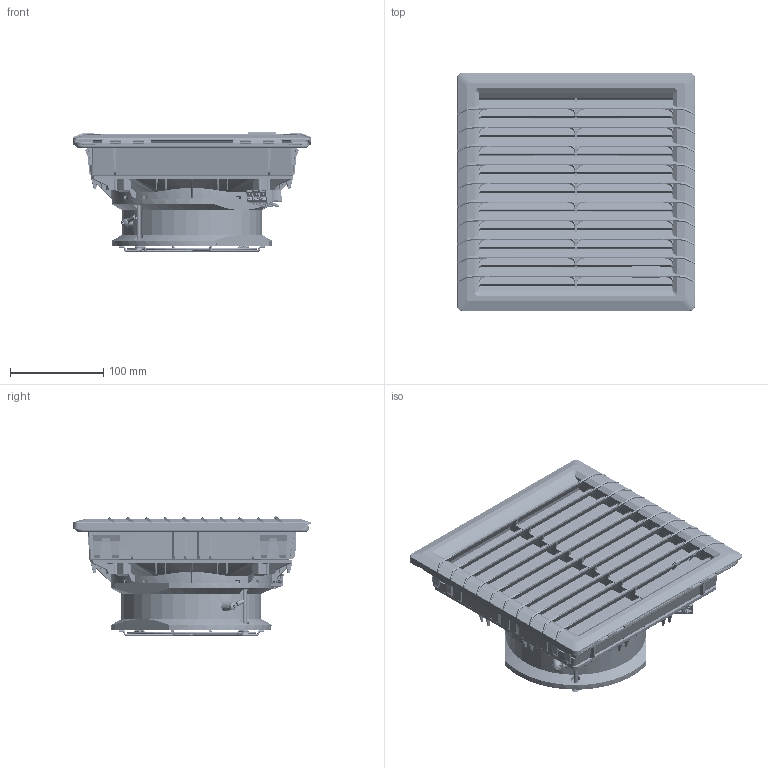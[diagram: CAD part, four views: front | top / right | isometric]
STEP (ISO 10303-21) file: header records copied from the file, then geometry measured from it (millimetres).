
FILE_DESCRIPTION((''),'2;1');
FILE_NAME('MODEL-999_ASM','2026-01-09T08:52:04',('JoelB'),('SAGINAW CONTROL & ENGINEERING'),'CREO PARAMETRIC BY PTC INC, 2021284','CREO PARAMETRIC BY PTC INC, 2021284','');
FILE_SCHEMA(('AUTOMOTIVE_DESIGN { 1 0 10303 214 1 1 1 1 }'));
Products named in the file (36): SF-4725-PU24-HOUSING_1_1; SF-4725-PU24-FOAM_1_1; SF-4725-PU24-HOUSING_ASM_1_ASM__ASM; SF-4725-PU24-ADAPTER_1_1; SF-4725-PU24-FOAM2_1_1; SF-4725-PU24-ADAPTER_ASM_1_ASM__ASM; FAN-GENERIC-172X151X51-CABLE1_2; FAN-GENERIC-172X151X51-CABLE1_3; FAN-GENERIC-172X151X51-CABLE1_1_ASM; TB-FM-3P-10_5-ADL-LK_980-PR_1_1; PIN-8MM_FERRULE_0_34MM2-INS_1_1; SF-4725-172-ELEC-1_1_1; LUG-RG-600V_AWG22_16-INS_1_1; PIN-6MM_FERRULE_TE_AWG18_17-ST_; SF-4725-172_PE2_1_1; SF-4725-172_PE2_ASM_1_ASM_1_ASM; SCREW_DIN_7985-M4X6_Z_PL_1_1; TOOTHED_WASHER_A4_6797_M4_1_1; FINGER_GUARD_D139_2POINT_MOUN_1; FINGER_GUARD_D139_2POINT_MOUN_2; FINGER_GUARD_D139_2POINT_MOUN_3; FINGER_GUARD_D139_2POINT_MOUN_4; FINGER_GUARD_D139_2POINT_MOUN_5; FINGER_GUARD_D139_2POINT_MOUN_6; FINGER_GUARD_D139_2POINT_MOUN_7; FINGER_GUARD_D139_2POINT_MOUN_8; FINGER_GUARD_D139_2POINT_MOUN_9; FINGER_GUARD_D139_2POINT_MOUNT__ASM; WUERTH_WIS_011642_70_DIN_7982_S; SF-4725-172-ELEC-1_ASM_1_ASM_1_ASM; SF-4725-PU24-FANASSY-172-2_ASM__ASM; SF-4725-PU24-G3_1_1; SF-4725-PU24-GRILLE_1_1; SF-4725-PU24-BRAND_1_1; SF-4725-PU24-COMPLETE_2_ASM_1_A_ASM; MODEL-999_ASM
Assembly tree (37 placements, depth 6):
  MODEL-999_ASM
    SF-4725-PU24-COMPLETE_2_ASM_1_A_ASM
      SF-4725-PU24-HOUSING_ASM_1_ASM__ASM
        SF-4725-PU24-HOUSING_1_1
        SF-4725-PU24-FOAM_1_1
      SF-4725-PU24-FANASSY-172-2_ASM__ASM
        SF-4725-PU24-ADAPTER_ASM_1_ASM__ASM
          SF-4725-PU24-ADAPTER_1_1
          SF-4725-PU24-FOAM2_1_1
        SF-4725-172-ELEC-1_ASM_1_ASM_1_ASM
          FAN-GENERIC-172X151X51-CABLE1_1_ASM
            FAN-GENERIC-172X151X51-CABLE1_2
            FAN-GENERIC-172X151X51-CABLE1_3
          TB-FM-3P-10_5-ADL-LK_980-PR_1_1
          PIN-8MM_FERRULE_0_34MM2-INS_1_1  x2
          SF-4725-172-ELEC-1_1_1
          SF-4725-172_PE2_ASM_1_ASM_1_ASM
            LUG-RG-600V_AWG22_16-INS_1_1
            PIN-6MM_FERRULE_TE_AWG18_17-ST_
            SF-4725-172_PE2_1_1
          SCREW_DIN_7985-M4X6_Z_PL_1_1
          TOOTHED_WASHER_A4_6797_M4_1_1
          FINGER_GUARD_D139_2POINT_MOUNT__ASM
            FINGER_GUARD_D139_2POINT_MOUN_1
            FINGER_GUARD_D139_2POINT_MOUN_2
            FINGER_GUARD_D139_2POINT_MOUN_3
            FINGER_GUARD_D139_2POINT_MOUN_4
            FINGER_GUARD_D139_2POINT_MOUN_5
            FINGER_GUARD_D139_2POINT_MOUN_6
            FINGER_GUARD_D139_2POINT_MOUN_7
            FINGER_GUARD_D139_2POINT_MOUN_8
            FINGER_GUARD_D139_2POINT_MOUN_9
          WUERTH_WIS_011642_70_DIN_7982_S  x2
      SF-4725-PU24-G3_1_1
      SF-4725-PU24-GRILLE_1_1
      SF-4725-PU24-BRAND_1_1
Bounding box: 255.54 x 255.34 x 128.58 mm (x, y, z)
Volume: 1263820.1 mm3; surface area: 797922.5 mm2
Topology: 26 solids, 30 shells, 9832 faces, 28914 edges, 18989 vertices
Faces by surface type: plane 5936, cylinder 2563, cone 462, bspline 460, torus 301, extrusion 96, sphere 14
Entity records: 459107 total; most frequent: CARTESIAN_POINT 118710, ORIENTED_EDGE 57393, DIRECTION 41658, EDGE_CURVE 28770, PRESENTATION_STYLE_ASSIGNMENT 28445, STYLED_ITEM 28441, CURVE_STYLE 28389, VERTEX_POINT 18922
